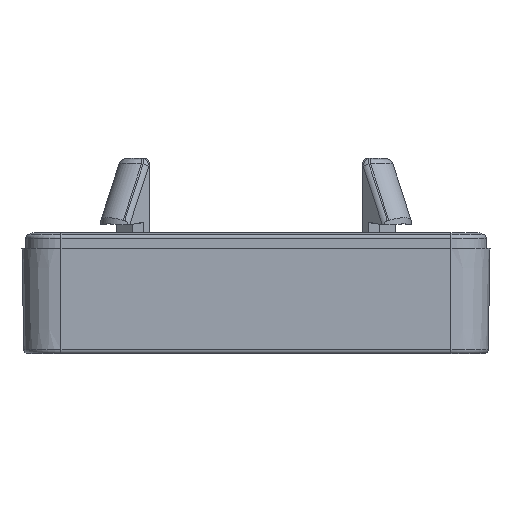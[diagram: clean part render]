
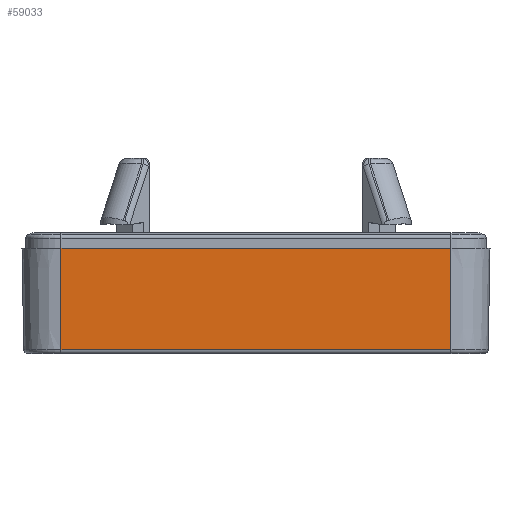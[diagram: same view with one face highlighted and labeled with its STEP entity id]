
A CAD part, left-side view. The second image highlights one B-rep face of the part: STEP entity #59033.
In plain terms, the highlighted planar face has unit normal (-1, 0, -0.018).
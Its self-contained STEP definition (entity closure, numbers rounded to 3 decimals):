
#5606=LINE('',#113941,#10041);
#5609=LINE('',#113952,#10044);
#5610=LINE('',#113954,#10045);
#5611=LINE('',#113955,#10046);
#10041=VECTOR('',#78095,10.);
#10044=VECTOR('',#78110,10.);
#10045=VECTOR('',#78111,10.);
#10046=VECTOR('',#78112,10.);
#12569=PLANE('',#64749);
#15669=FACE_OUTER_BOUND('',#19622,.T.);
#19622=EDGE_LOOP('',(#50038,#50039,#50040,#50041));
#28420=VERTEX_POINT('',#113933);
#28422=VERTEX_POINT('',#113939);
#28424=VERTEX_POINT('',#113951);
#28425=VERTEX_POINT('',#113953);
#36040=EDGE_CURVE('',#28420,#28422,#5606,.T.);
#36045=EDGE_CURVE('',#28424,#28420,#5609,.T.);
#36046=EDGE_CURVE('',#28425,#28424,#5610,.T.);
#36047=EDGE_CURVE('',#28425,#28422,#5611,.T.);
#50038=ORIENTED_EDGE('',*,*,#36040,.F.);
#50039=ORIENTED_EDGE('',*,*,#36045,.F.);
#50040=ORIENTED_EDGE('',*,*,#36046,.F.);
#50041=ORIENTED_EDGE('',*,*,#36047,.T.);
#59033=ADVANCED_FACE('',(#15669),#12569,.F.);
#64749=AXIS2_PLACEMENT_3D('',#113950,#78108,#78109);
#78095=DIRECTION('',(0.,1.,0.));
#78108=DIRECTION('center_axis',(1.,0.,
0.017));
#78109=DIRECTION('ref_axis',(0.017,0.,-1.));
#78110=DIRECTION('',(0.017,0.,-1.));
#78111=DIRECTION('',(0.,-1.,0.));
#78112=DIRECTION('',(0.017,0.,-1.));
#113933=CARTESIAN_POINT('',(-73.773,-25.,-13.009));
#113939=CARTESIAN_POINT('',(-73.773,25.,-13.009));
#113941=CARTESIAN_POINT('',(-73.773,19.916,-13.009));
#113950=CARTESIAN_POINT('Origin',(-74.,25.,0.));
#113951=CARTESIAN_POINT('',(-74.,-25.,0.));
#113952=CARTESIAN_POINT('',(-73.764,-25.,-13.5));
#113953=CARTESIAN_POINT('',(-74.,25.,0.));
#113954=CARTESIAN_POINT('',(-74.,0.,0.));
#113955=CARTESIAN_POINT('',(-73.764,25.,-13.5));
